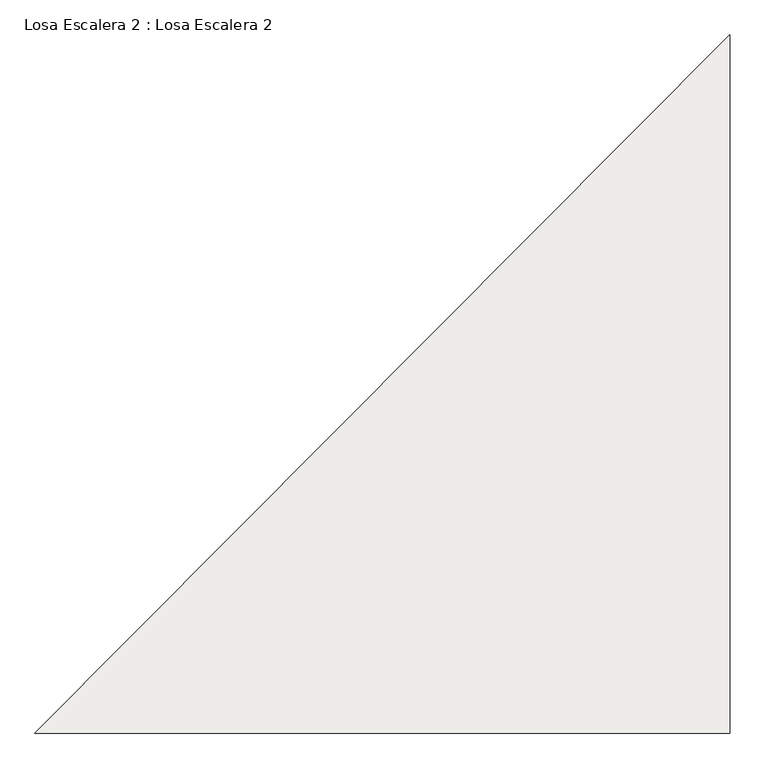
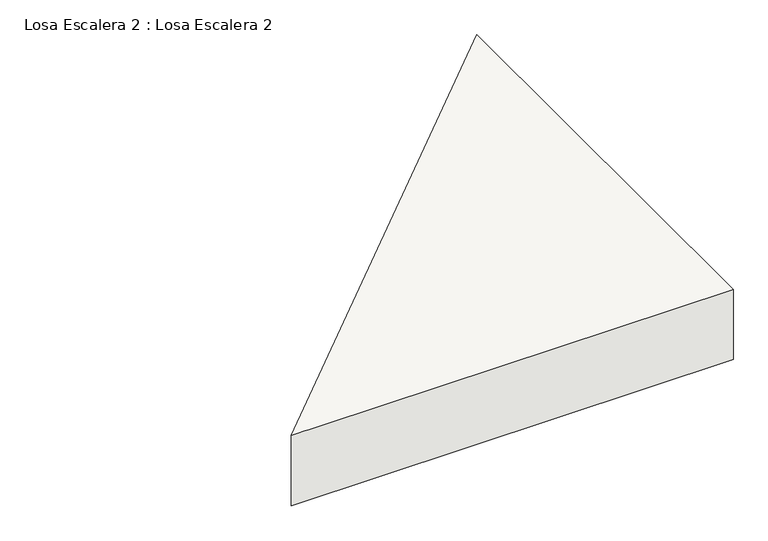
"""IFC4 building model written with IfcOpenShell, lengths in millimetres: slab geometry, Losa Escalera 2 : Losa Escalera 2."""

from ifc_helpers import new_model, si_unit, origin, place, context, project, spatial, faceted_brep, source, transform, mapped, element, save


def losa_escalera_2_losa_escalera_2_3b4d2fc1(model_context):
    return source(origin(), model_context, "Body", "Brep", [
        faceted_brep([(11415.0, 7644.0656057, 1495.0811641), (11415.0, 8750.0, 1495.0811641), (10314.0698338, 7644.0656057, 1495.0811641), (10390.0, 7644.0656057, 1495.0811641), (11415.0, 7644.0656057, 1309.8801816), (10314.0698338, 7644.0656057, 1309.8801816), (11415.0, 8750.0, 1309.8801816)], [[[0, 1, 2, 3]], [[4, 5, 6]], [[1, 0, 4, 6]], [[2, 1, 6, 5]], [[0, 3, 2, 5, 4]]]),
    ])


if __name__ == "__main__":
    model = new_model("IFC4")
    model_context = context("Model", 3, world=origin())
    ifc_project = project(units=[si_unit("LENGTHUNIT", "METRE", prefix="MILLI")], contexts=[model_context])
    site = spatial("IfcSite", under=ifc_project)
    building = spatial("IfcBuilding", under=site)
    placement = place(None, origin())
    losa_escalera_2_losa_escalera_2_shape = losa_escalera_2_losa_escalera_2_3b4d2fc1(model_context)
    element("IfcSlab", 1, ObjectType="Losa Escalera 2 : Losa Escalera 2", at=placement, inside=building, context=model_context, shape_type="MappedRepresentation", body=[
        mapped(losa_escalera_2_losa_escalera_2_shape, transform((0.0, 0.0, 0.0), x_axis=(1.0, 0.0, 0.0), y_axis=(0.0, 1.0, 0.0), z_axis=(0.0, 0.0, 1.0))),
    ])
    save(model, "model.ifc")
